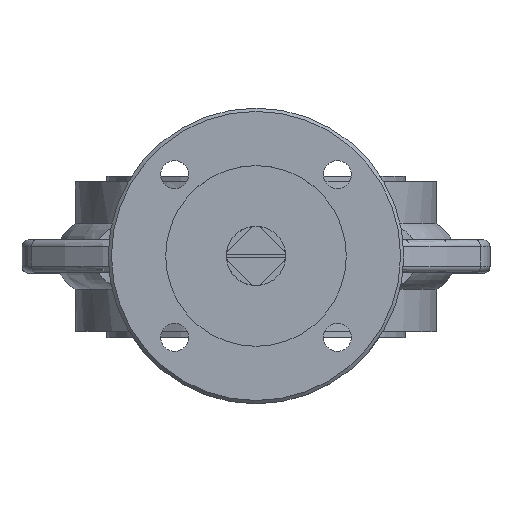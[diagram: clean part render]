
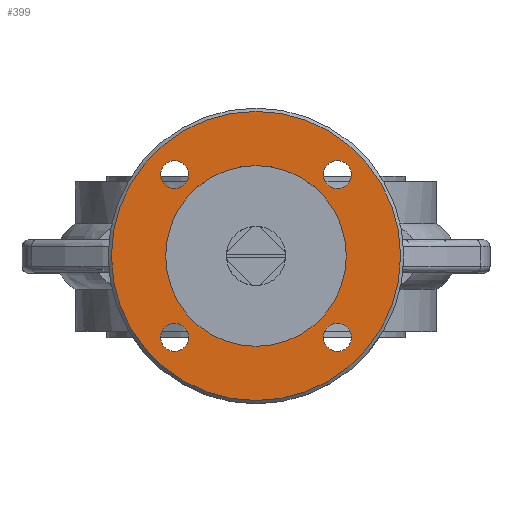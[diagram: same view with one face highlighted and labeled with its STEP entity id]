
A CAD part, top view. The second image highlights one B-rep face of the part: STEP entity #399.
In plain terms, the highlighted planar face has unit normal (0, 0, 1).
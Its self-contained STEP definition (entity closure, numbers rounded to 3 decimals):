
#399 = ADVANCED_FACE( '', ( #926, #927, #928, #929, #930, #931 ), #932, .T. );
#926 = FACE_BOUND( '', #2839, .T. );
#927 = FACE_BOUND( '', #2840, .T. );
#928 = FACE_BOUND( '', #2841, .T. );
#929 = FACE_OUTER_BOUND( '', #2842, .T. );
#930 = FACE_BOUND( '', #2843, .T. );
#931 = FACE_BOUND( '', #2844, .T. );
#932 = PLANE( '', #2845 );
#2839 = EDGE_LOOP( '', ( #5045 ) );
#2840 = EDGE_LOOP( '', ( #5046 ) );
#2841 = EDGE_LOOP( '', ( #5047 ) );
#2842 = EDGE_LOOP( '', ( #5048 ) );
#2843 = EDGE_LOOP( '', ( #5049 ) );
#2844 = EDGE_LOOP( '', ( #5050 ) );
#2845 = AXIS2_PLACEMENT_3D( '', #5051, #5052, #5053 );
#5045 = ORIENTED_EDGE( '', *, *, #6554, .T. );
#5046 = ORIENTED_EDGE( '', *, *, #6555, .T. );
#5047 = ORIENTED_EDGE( '', *, *, #6556, .T. );
#5048 = ORIENTED_EDGE( '', *, *, #6557, .F. );
#5049 = ORIENTED_EDGE( '', *, *, #6558, .T. );
#5050 = ORIENTED_EDGE( '', *, *, #6458, .T. );
#5051 = CARTESIAN_POINT( '', ( 0., 22.8, 122. ) );
#5052 = DIRECTION( '', ( 0., 0., 1. ) );
#5053 = DIRECTION( '', ( 1., 0., 0. ) );
#6458 = EDGE_CURVE( '', #7439, #7439, #7440, .T. );
#6554 = EDGE_CURVE( '', #7585, #7585, #7586, .T. );
#6555 = EDGE_CURVE( '', #7587, #7587, #7588, .T. );
#6556 = EDGE_CURVE( '', #7589, #7589, #7590, .T. );
#6557 = EDGE_CURVE( '', #7591, #7591, #7592, .T. );
#6558 = EDGE_CURVE( '', #7593, #7593, #7594, .T. );
#7439 = VERTEX_POINT( '', #9855 );
#7440 = CIRCLE( '', #9856, 4.25 );
#7585 = VERTEX_POINT( '', #10170 );
#7586 = CIRCLE( '', #10171, 27.5 );
#7587 = VERTEX_POINT( '', #10172 );
#7588 = CIRCLE( '', #10173, 4.25 );
#7589 = VERTEX_POINT( '', #10174 );
#7590 = CIRCLE( '', #10175, 4.25 );
#7591 = VERTEX_POINT( '', #10176 );
#7592 = CIRCLE( '', #10177, 44. );
#7593 = VERTEX_POINT( '', #10178 );
#7594 = CIRCLE( '', #10179, 4.25 );
#9855 = CARTESIAN_POINT( '', ( 28.999, 47.549, 122. ) );
#9856 = AXIS2_PLACEMENT_3D( '', #11377, #11378, #11379 );
#10170 = CARTESIAN_POINT( '', ( -27.5, 22.8, 122. ) );
#10171 = AXIS2_PLACEMENT_3D( '', #11509, #11510, #11511 );
#10172 = CARTESIAN_POINT( '', ( -20.499, -1.949, 122. ) );
#10173 = AXIS2_PLACEMENT_3D( '', #11512, #11513, #11514 );
#10174 = CARTESIAN_POINT( '', ( 28.999, -1.949, 122. ) );
#10175 = AXIS2_PLACEMENT_3D( '', #11515, #11516, #11517 );
#10176 = CARTESIAN_POINT( '', ( -44., 22.8, 122. ) );
#10177 = AXIS2_PLACEMENT_3D( '', #11518, #11519, #11520 );
#10178 = CARTESIAN_POINT( '', ( -20.499, 47.549, 122. ) );
#10179 = AXIS2_PLACEMENT_3D( '', #11521, #11522, #11523 );
#11377 = CARTESIAN_POINT( '', ( 24.749, 47.549, 122. ) );
#11378 = DIRECTION( '', ( 0., 0., -1. ) );
#11379 = DIRECTION( '', ( 1., 0., 0. ) );
#11509 = CARTESIAN_POINT( '', ( 0., 22.8, 122. ) );
#11510 = DIRECTION( '', ( 0., 0., -1. ) );
#11511 = DIRECTION( '', ( -1., 0., 0. ) );
#11512 = CARTESIAN_POINT( '', ( -24.749, -1.949, 122. ) );
#11513 = DIRECTION( '', ( 0., 0., -1. ) );
#11514 = DIRECTION( '', ( 1., 0., 0. ) );
#11515 = CARTESIAN_POINT( '', ( 24.749, -1.949, 122. ) );
#11516 = DIRECTION( '', ( 0., 0., -1. ) );
#11517 = DIRECTION( '', ( 1., 0., 0. ) );
#11518 = CARTESIAN_POINT( '', ( 0., 22.8, 122. ) );
#11519 = DIRECTION( '', ( 0., 0., -1. ) );
#11520 = DIRECTION( '', ( -1., 0., 0. ) );
#11521 = CARTESIAN_POINT( '', ( -24.749, 47.549, 122. ) );
#11522 = DIRECTION( '', ( 0., 0., -1. ) );
#11523 = DIRECTION( '', ( 1., 0., 0. ) );
